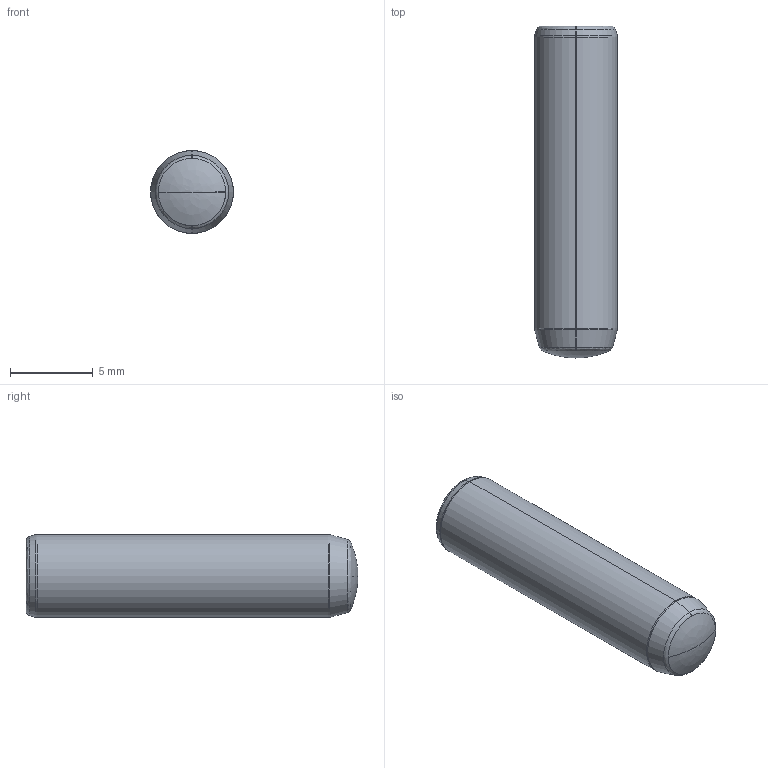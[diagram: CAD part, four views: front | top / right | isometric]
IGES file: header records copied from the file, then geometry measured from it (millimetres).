
Start section: SolidWorks IGES file using analytic representation for surfaces
Global section: file name: D:\Cleonir_arquivos\MT_15_07\Pinos Guia DIN 7979 ISO 8735 com rosca\PG705020.igs; native system: SolidWorks 2013; preprocessor: SolidWorks 2013; author: Cleonir; date: 130730.170831; units: millimetre
Bounding box: 5 x 20 x 5 mm (x, y, z)
Surface area: 403.7 mm2 (no closed solid volume)
Topology: 0 solids, 0 shells, 289 faces, 2165 edges, 2161 vertices
Faces by surface type: bspline 267, revolution 22
